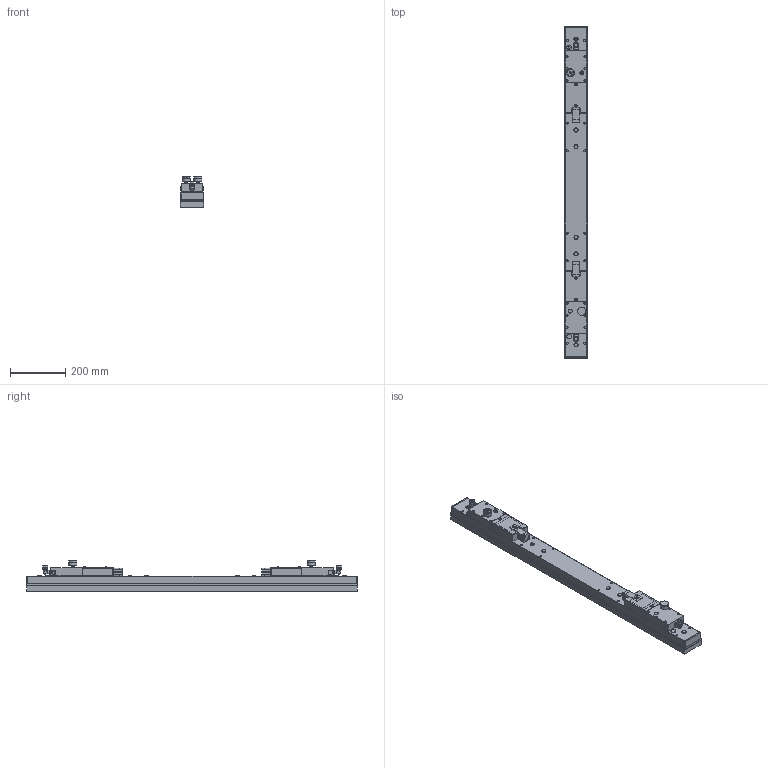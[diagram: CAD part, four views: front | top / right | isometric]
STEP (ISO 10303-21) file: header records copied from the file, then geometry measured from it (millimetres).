
FILE_DESCRIPTION (( 'STEP AP203' ), '1' );
FILE_NAME ('9671-120-013.STEP', '2014-03-27T12:21:23', ( '' ), ( '' ), 'SwSTEP 2.0', 'SolidWorks 2014', '' );
FILE_SCHEMA (( 'CONFIG_CONTROL_DESIGN' ));
Length unit declared in the file: millimetre
Products named in the file (1): 9671-120-013
Bounding box: 86 x 1206 x 111 mm (x, y, z)
Volume: 5818282.1 mm3; surface area: 698139.8 mm2
Topology: 1 solids, 1 shells, 1713 faces, 4240 edges, 2761 vertices
Faces by surface type: plane 1010, cylinder 545, cone 98, bspline 40, sphere 10, torus 10
Full cylindrical faces by diameter (mm): 4 x4, 5 x6, 5.5 x2, 6 x8, 6.5 x8, 6.8 x12, 8 x2, 8.5 x6, 9.2 x2, 9.5 x8, 9.77 x2, 12 x2, 14 x2, 14.8 x12, 15 x90, 15.4 x4, 16.8 x2, 17 x16, 17.7 x2, 18 x2, 19.5 x2, 20 x39, 27 x1, 29 x2, 30 x2
Entity records: 54769 total; most frequent: CARTESIAN_POINT 16011, DIRECTION 8154, ORIENTED_EDGE 7392, EDGE_CURVE 3696, AXIS2_PLACEMENT_3D 2970, VERTEX_POINT 2535, EDGE_LOOP 2319, VECTOR 2214
